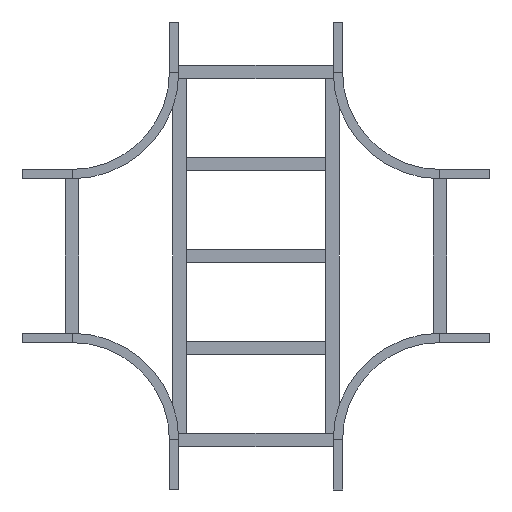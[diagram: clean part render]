
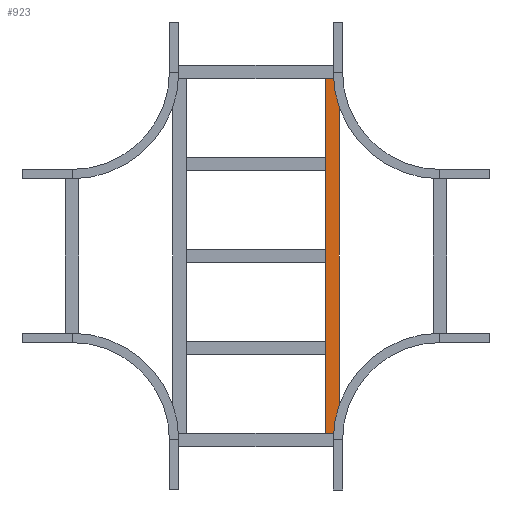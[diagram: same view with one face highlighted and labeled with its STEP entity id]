
A CAD part, front view. The second image highlights one B-rep face of the part: STEP entity #923.
In plain terms, the highlighted planar face has unit normal (0, -1, 0).
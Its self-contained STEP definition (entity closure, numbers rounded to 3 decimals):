
#47 = CARTESIAN_POINT ( 'NONE',  ( 529.75, 0., -20.25 ) ) ;
#82 = VERTEX_POINT ( 'NONE', #1835 ) ;
#260 = FACE_OUTER_BOUND ( 'NONE', #327, .T. ) ;
#327 = EDGE_LOOP ( 'NONE', ( #1601, #1710, #1040, #1298 ) ) ;
#427 = DIRECTION ( 'NONE',  ( -1., 0., 0. ) ) ;
#501 = LINE ( 'NONE', #2071, #1720 ) ;
#505 = EDGE_CURVE ( 'NONE', #521, #860, #1822, .T. ) ;
#514 = VERTEX_POINT ( 'NONE', #778 ) ;
#521 = VERTEX_POINT ( 'NONE', #1636 ) ;
#545 = EDGE_CURVE ( 'NONE', #514, #82, #603, .T. ) ;
#603 = LINE ( 'NONE', #1452, #698 ) ;
#619 = DIRECTION ( 'NONE',  ( 0., 1., 0. ) ) ;
#698 = VECTOR ( 'NONE', #427, 1000. ) ;
#724 = DIRECTION ( 'NONE',  ( 0., 0., -1. ) ) ;
#761 = DIRECTION ( 'NONE',  ( -1., 0., 0. ) ) ;
#778 = CARTESIAN_POINT ( 'NONE',  ( 529.75, 0., 20.25 ) ) ;
#860 = VERTEX_POINT ( 'NONE', #1057 ) ;
#923 = ADVANCED_FACE ( 'NONE', ( #260 ), #2192, .F. ) ;
#951 = CARTESIAN_POINT ( 'NONE',  ( 529.75, 0., 20.25 ) ) ;
#1040 = ORIENTED_EDGE ( 'NONE', *, *, #1442, .F. ) ;
#1057 = CARTESIAN_POINT ( 'NONE',  ( -529.75, 0., -20.25 ) ) ;
#1298 = ORIENTED_EDGE ( 'NONE', *, *, #545, .T. ) ;
#1350 = VECTOR ( 'NONE', #761, 1000. ) ;
#1360 = DIRECTION ( 'NONE',  ( 0., 0., -1. ) ) ;
#1442 = EDGE_CURVE ( 'NONE', #514, #521, #501, .T. ) ;
#1452 = CARTESIAN_POINT ( 'NONE',  ( 529.75, 0., 20.25 ) ) ;
#1599 = CARTESIAN_POINT ( 'NONE',  ( -529.75, 0., 20.25 ) ) ;
#1601 = ORIENTED_EDGE ( 'NONE', *, *, #2254, .T. ) ;
#1618 = VECTOR ( 'NONE', #724, 1000. ) ;
#1632 = LINE ( 'NONE', #1599, #1618 ) ;
#1636 = CARTESIAN_POINT ( 'NONE',  ( 529.75, 0., -20.25 ) ) ;
#1710 = ORIENTED_EDGE ( 'NONE', *, *, #505, .F. ) ;
#1720 = VECTOR ( 'NONE', #1360, 1000. ) ;
#1822 = LINE ( 'NONE', #47, #1350 ) ;
#1835 = CARTESIAN_POINT ( 'NONE',  ( -529.75, 0., 20.25 ) ) ;
#1970 = DIRECTION ( 'NONE',  ( 0., 0., 1. ) ) ;
#2071 = CARTESIAN_POINT ( 'NONE',  ( 529.75, 0., 20.25 ) ) ;
#2169 = AXIS2_PLACEMENT_3D ( 'NONE', #951, #619, #1970 ) ;
#2192 = PLANE ( 'NONE',  #2169 ) ;
#2254 = EDGE_CURVE ( 'NONE', #82, #860, #1632, .T. ) ;
